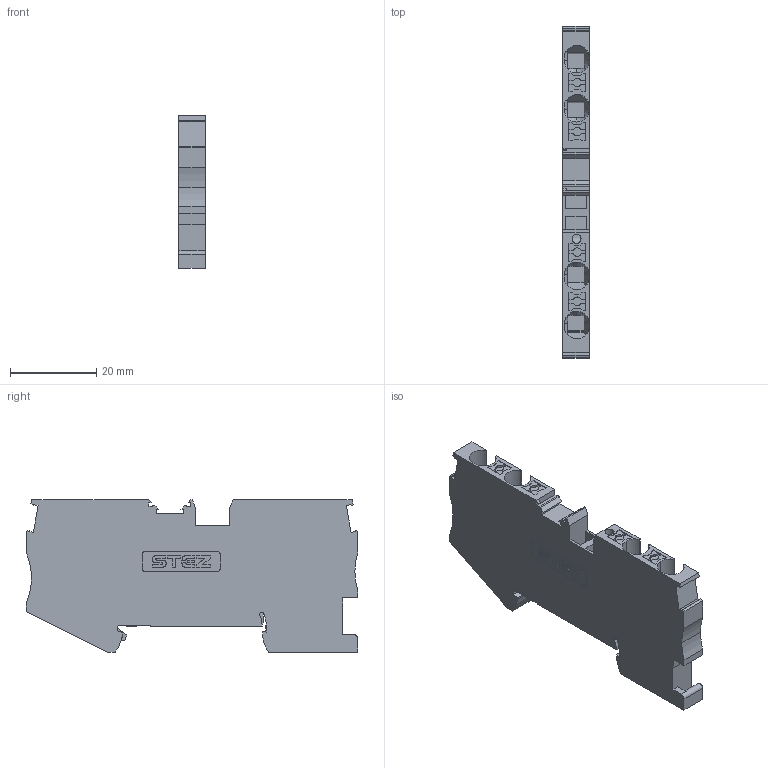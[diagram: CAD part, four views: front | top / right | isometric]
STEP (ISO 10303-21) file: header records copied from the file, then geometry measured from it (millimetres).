
FILE_DESCRIPTION(('TFLEX Exchange Step'),'2;1');
FILE_NAME('14000152_КНБ_4-4-PE.stp', '2025-06-24T11:02:21+03:00',('MVarava'),('Unknown organisation'),'TFLEX Exchange 2023.0','T-FLEX CAD','Unknown authorisation');
FILE_SCHEMA( ('AUTOMOTIVE_DESIGN { 1 0 10303 214 1 1 1 1 }') );
Length unit declared in the file: millimetre
Products named in the file (1): Nodes
Bounding box: 6.15 x 77 x 35.35 mm (x, y, z)
Volume: 12133.6 mm3; surface area: 7728.4 mm2
Topology: 1 solids, 1 shells, 524 faces, 1524 edges, 1014 vertices
Faces by surface type: plane 305, cylinder 203, cone 8, torus 8
Full cylindrical faces by diameter (mm): 2.1 x1
Entity records: 19511 total; most frequent: CARTESIAN_POINT 5456, ORIENTED_EDGE 3048, DIRECTION 2762, EDGE_CURVE 1524, VERTEX_POINT 1014, AXIS2_PLACEMENT_3D 928, VECTOR 906, LINE 906
